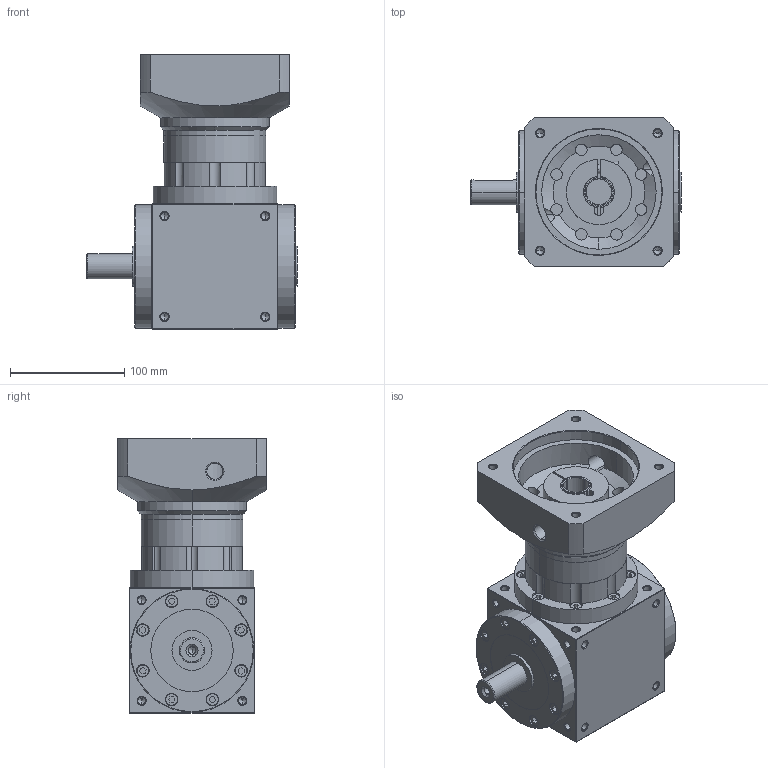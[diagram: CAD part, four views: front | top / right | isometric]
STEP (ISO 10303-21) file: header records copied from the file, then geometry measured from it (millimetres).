
FILE_DESCRIPTION (( 'STEP AP203' ), '1' );
FILE_NAME ('AT120-FL1-L2-22-110-145M8.STEP', '2025-12-20T02:19:34', ( 'Windows User' ), ( 'P R C' ), 'SwSTEP 2.0', 'SolidWorks 2016', '' );
FILE_SCHEMA (( 'CONFIG_CONTROL_DESIGN' ));
Length unit declared in the file: millimetre
Products named in the file (7): AT120-怀堤楊擘-蠶講; 输入胀套-27; AT120-单级齿圈; AT120-输入法兰-F-110-M8-145; 输入轴套-24-22; AT120-FL1-L2-22-110-145M8; AT120转角箱体-左-单轴输出
Assembly tree (6 placements, depth 2):
  AT120-FL1-L2-22-110-145M8
    AT120转角箱体-左-单轴输出
    AT120-怀堤楊擘-蠶講
    输入胀套-27
    AT120-单级齿圈
    AT120-输入法兰-F-110-M8-145
    输入轴套-24-22
Bounding box: 184 x 130 x 240 mm (x, y, z)
Volume: 1980512.2 mm3; surface area: 301073 mm2
Topology: 6 solids, 18 shells, 1584 faces, 4132 edges, 2635 vertices
Faces by surface type: plane 832, cylinder 372, cone 232, bspline 148
Entity records: 55211 total; most frequent: CARTESIAN_POINT 16987, ORIENTED_EDGE 8084, DIRECTION 7217, EDGE_CURVE 4042, VERTEX_POINT 2635, VECTOR 2617, LINE 2617, AXIS2_PLACEMENT_3D 2300
